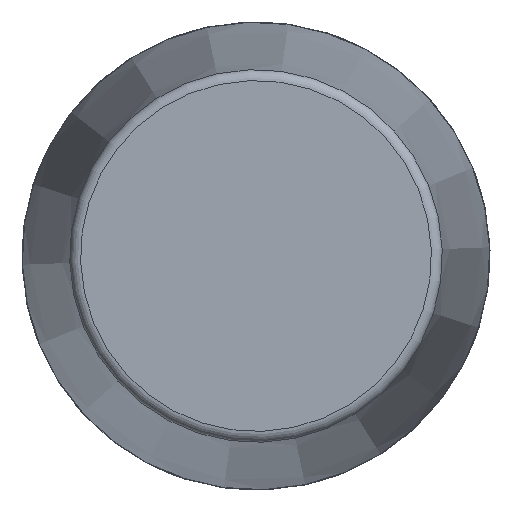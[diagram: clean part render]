
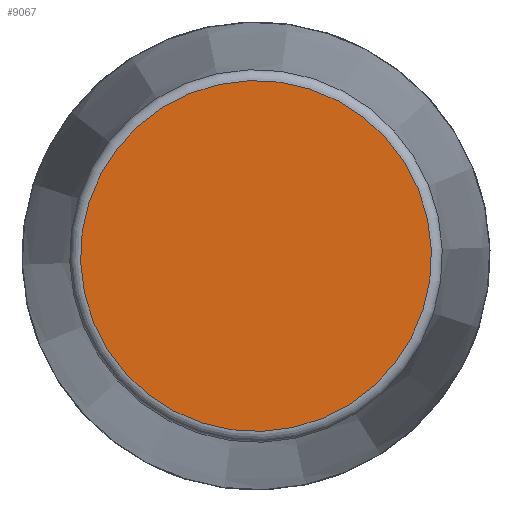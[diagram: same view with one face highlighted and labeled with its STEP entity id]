
A CAD part, front view. The second image highlights one B-rep face of the part: STEP entity #9067.
In plain terms, the highlighted planar face has unit normal (0, -1, 0) as drawn and (1, 0, 0) by its records, which use the part's own axes.
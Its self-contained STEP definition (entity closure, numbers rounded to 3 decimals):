
#287=PLANE('',#9466);
#3170=FACE_OUTER_BOUND('',#3753,.T.);
#3753=EDGE_LOOP('',(#8536));
#3794=CIRCLE('',#9462,161.146);
#4668=VERTEX_POINT('',#16876);
#5960=EDGE_CURVE('',#4668,#4668,#3794,.T.);
#8536=ORIENTED_EDGE('',*,*,#5960,.F.);
#9067=ADVANCED_FACE('',(#3170),#287,.T.);
#9462=AXIS2_PLACEMENT_3D('',#16877,#10931,#10932);
#9466=AXIS2_PLACEMENT_3D('',#16883,#10939,#10940);
#10931=DIRECTION('center_axis',(-1.,0.,0.));
#10932=DIRECTION('ref_axis',(0.,0.,
1.));
#10939=DIRECTION('center_axis',(1.,0.,0.));
#10940=DIRECTION('ref_axis',(0.,0.,-1.));
#16876=CARTESIAN_POINT('',(719.5,0.,-161.146));
#16877=CARTESIAN_POINT('Origin',(719.5,0.,0.));
#16883=CARTESIAN_POINT('Origin',(719.5,0.,0.));
